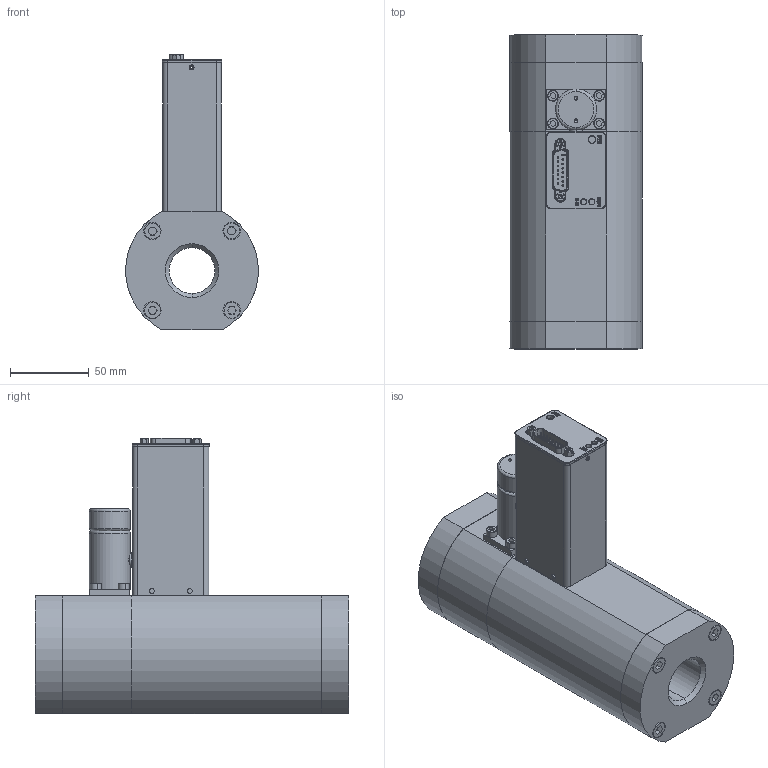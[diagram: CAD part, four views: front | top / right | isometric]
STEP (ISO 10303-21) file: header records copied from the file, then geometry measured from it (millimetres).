
FILE_DESCRIPTION (( 'STEP AP214' ), '1' );
FILE_NAME ('SLA5853-S-2H-3-C-REVB.STEP', '2021-07-27T12:48:44', ( '' ), ( '' ), 'SwSTEP 2.0', 'SolidWorks 2020', '' );
FILE_SCHEMA (( 'AUTOMOTIVE_DESIGN' ));
Length unit declared in the file: inch
Products named in the file (1): SLA5853-S-2H-3-C-REVB
Bounding box: 83.7 x 198.8 x 174.37 mm (x, y, z)
Volume: 612762.9 mm3; surface area: 189828 mm2
Topology: 28 solids, 28 shells, 1473 faces, 3597 edges, 2256 vertices
Faces by surface type: plane 557, cylinder 451, cone 278, bspline 187
Entity records: 67546 total; most frequent: CARTESIAN_POINT 14021, ORIENTED_EDGE 7106, DIRECTION 6945, EDGE_CURVE 3553, AXIS2_PLACEMENT_3D 2544, VERTEX_POINT 2256, VECTOR 1857, LINE 1857
